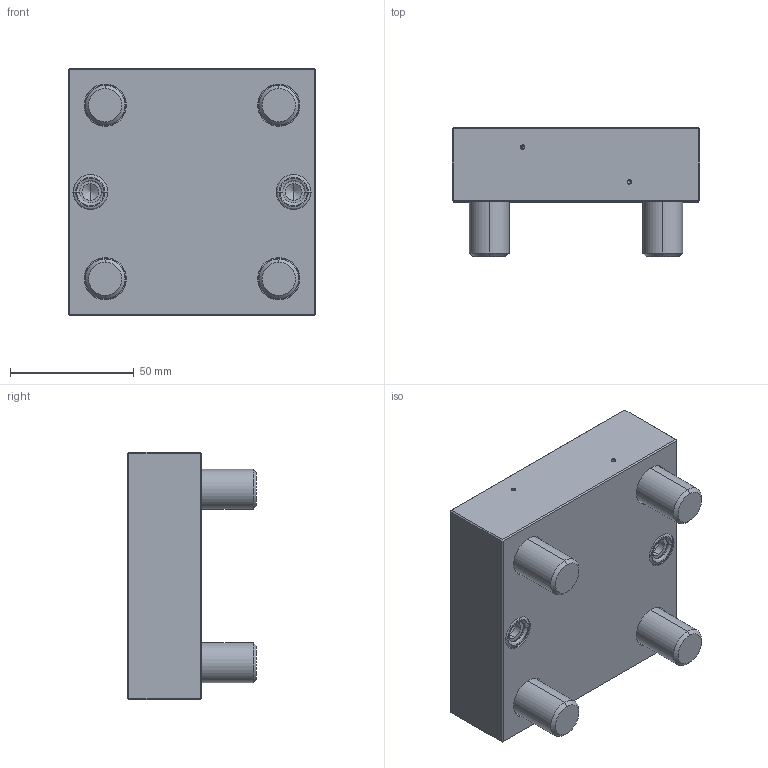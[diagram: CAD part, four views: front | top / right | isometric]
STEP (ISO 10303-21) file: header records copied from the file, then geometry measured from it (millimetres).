
FILE_DESCRIPTION (( 'STEP AP214' ), '1' );
FILE_NAME ('D32420.STEP', '2017-03-17T14:57:02', ( '' ), ( '' ), 'SwSTEP 2.0', 'SolidWorks 2016', '' );
FILE_SCHEMA (( 'AUTOMOTIVE_DESIGN' ));
Length unit declared in the file: millimetre
Products named in the file (1): D32420
Bounding box: 100 x 52 x 100 mm (x, y, z)
Volume: 301292.7 mm3; surface area: 55997.8 mm2
Topology: 7 solids, 7 shells, 208 faces, 460 edges, 268 vertices
Faces by surface type: plane 96, cylinder 52, cone 28, torus 16, bspline 16
Entity records: 8156 total; most frequent: CARTESIAN_POINT 1209, DIRECTION 1018, ORIENTED_EDGE 888, EDGE_CURVE 444, AXIS2_PLACEMENT_3D 397, VERTEX_POINT 268, EDGE_LOOP 238, VECTOR 224
